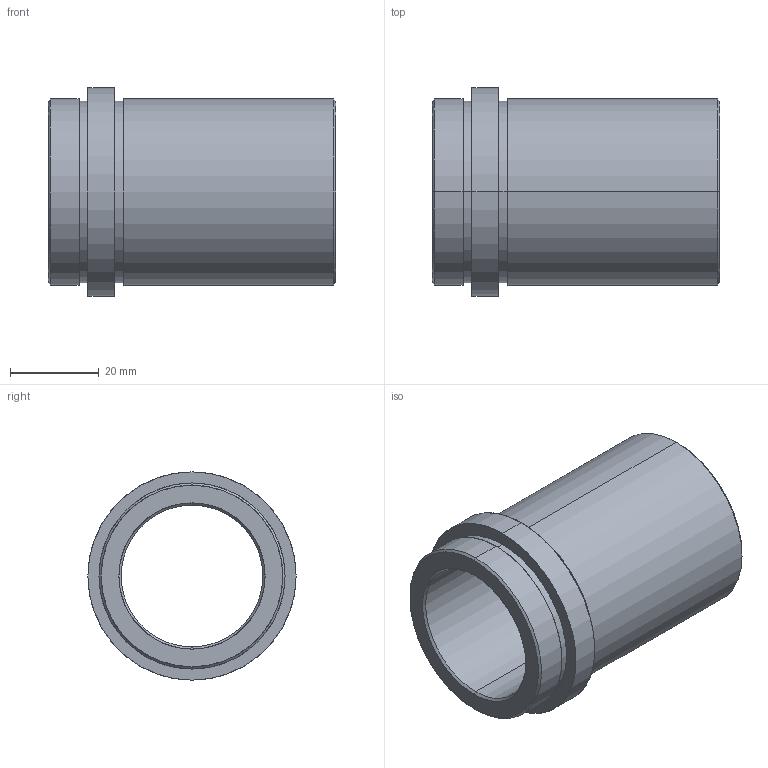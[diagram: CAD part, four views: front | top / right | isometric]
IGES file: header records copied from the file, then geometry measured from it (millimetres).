
Start section: SolidWorks IGES file using analytic representation for surfaces
Global section: file name: C:\Users\Dell\Desktop\deltakont\kontrol edilecekler\D21\Ø32\D21_32x56.IGS; native system: SolidWorks 2010; preprocessor: SolidWorks 2010; author: Dell; date: 111229.205918; units: millimetre
Bounding box: 65 x 47 x 47 mm (x, y, z)
Surface area: 17178.7 mm2 (no closed solid volume)
Topology: 0 solids, 0 shells, 26 faces, 848 edges, 848 vertices
Faces by surface type: revolution 20, bspline 6
